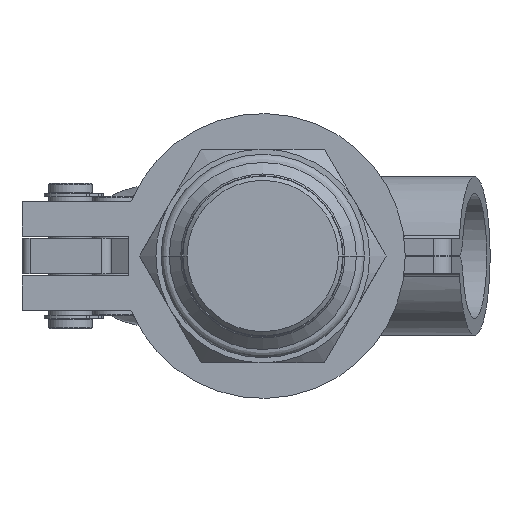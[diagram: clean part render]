
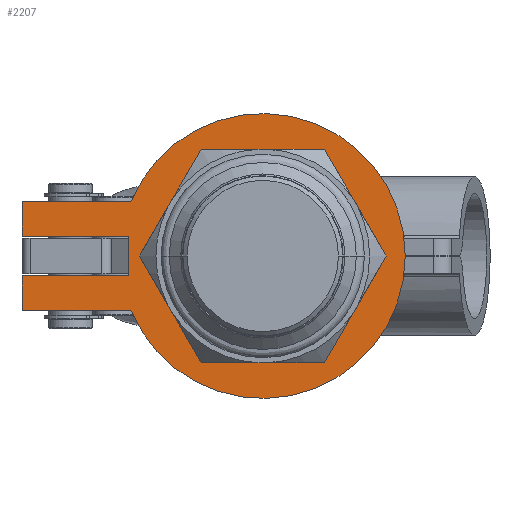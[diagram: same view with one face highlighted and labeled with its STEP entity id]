
A CAD part, front view. The second image highlights one B-rep face of the part: STEP entity #2207.
In plain terms, the highlighted planar face has unit normal (0, -1, 0).
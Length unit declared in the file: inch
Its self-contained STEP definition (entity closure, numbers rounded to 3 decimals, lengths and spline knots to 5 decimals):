
#314=DIRECTION('',(-1.,0.,0.));
#315=VECTOR('',#314,0.76501);
#316=CARTESIAN_POINT('',(-0.92499,0.86,-0.38));
#317=LINE('',#316,#315);
#318=DIRECTION('',(0.,0.,1.));
#319=VECTOR('',#318,0.24);
#320=CARTESIAN_POINT('',(-1.69,0.86,-0.38));
#321=LINE('',#320,#319);
#322=DIRECTION('',(1.,0.,0.));
#323=VECTOR('',#322,0.75);
#324=CARTESIAN_POINT('',(-1.69,0.86,-0.14));
#325=LINE('',#324,#323);
#326=DIRECTION('',(0.,0.,1.));
#327=VECTOR('',#326,0.28);
#328=CARTESIAN_POINT('',(-0.94,0.86,-0.14));
#329=LINE('',#328,#327);
#330=DIRECTION('',(-1.,0.,0.));
#331=VECTOR('',#330,0.75);
#332=CARTESIAN_POINT('',(-0.94,0.86,0.14));
#333=LINE('',#332,#331);
#334=DIRECTION('',(0.,0.,1.));
#335=VECTOR('',#334,0.24);
#336=CARTESIAN_POINT('',(-1.69,0.86,0.14));
#337=LINE('',#336,#335);
#338=DIRECTION('',(1.,0.,0.));
#339=VECTOR('',#338,0.76501);
#340=CARTESIAN_POINT('',(-1.69,0.86,0.38));
#341=LINE('',#340,#339);
#342=CARTESIAN_POINT('',(0.,0.86,0.));
#343=DIRECTION('',(0.,1.,0.));
#344=DIRECTION('',(-0.925,0.,0.38));
#345=AXIS2_PLACEMENT_3D('',#342,#343,#344);
#347=CARTESIAN_POINT('',(0.,0.86,0.));
#348=DIRECTION('',(0.,-1.,0.));
#349=DIRECTION('',(-0.045,0.,-0.999));
#350=AXIS2_PLACEMENT_3D('',#347,#348,#349);
#352=CARTESIAN_POINT('',(0.,0.86,0.));
#353=DIRECTION('',(0.,-1.,0.));
#354=DIRECTION('',(0.,0.,-1.));
#355=AXIS2_PLACEMENT_3D('',#352,#353,#354);
#357=CARTESIAN_POINT('',(0.,0.86,0.));
#358=DIRECTION('',(0.,-1.,0.));
#359=DIRECTION('',(0.843,0.,-0.538));
#360=AXIS2_PLACEMENT_3D('',#357,#358,#359);
#362=CARTESIAN_POINT('',(0.,0.86,0.));
#363=DIRECTION('',(0.,-1.,0.));
#364=DIRECTION('',(0.888,0.,0.461));
#365=AXIS2_PLACEMENT_3D('',#362,#363,#364);
#367=CARTESIAN_POINT('',(0.,0.86,0.));
#368=DIRECTION('',(0.,-1.,0.));
#369=DIRECTION('',(0.045,0.,0.999));
#370=AXIS2_PLACEMENT_3D('',#367,#368,#369);
#372=CARTESIAN_POINT('',(0.,0.86,0.));
#373=DIRECTION('',(0.,-1.,0.));
#374=DIRECTION('',(0.,0.,1.));
#375=AXIS2_PLACEMENT_3D('',#372,#373,#374);
#377=CARTESIAN_POINT('',(0.,0.86,0.));
#378=DIRECTION('',(0.,-1.,0.));
#379=DIRECTION('',(-0.843,0.,0.538));
#380=AXIS2_PLACEMENT_3D('',#377,#378,#379);
#382=CARTESIAN_POINT('',(0.,0.86,0.));
#383=DIRECTION('',(0.,-1.,0.));
#384=DIRECTION('',(-0.888,0.,-0.461));
#385=AXIS2_PLACEMENT_3D('',#382,#383,#384);
#522=DIRECTION('',(-0.5,0.,0.866));
#523=VECTOR('',#522,0.39905);
#524=CARTESIAN_POINT('',(-0.43258,0.86,-0.74925));
#525=LINE('',#524,#523);
#526=DIRECTION('',(-0.5,0.,0.866));
#527=VECTOR('',#526,0.39905);
#528=CARTESIAN_POINT('',(-0.66564,0.86,-0.34558));
#529=LINE('',#528,#527);
#582=DIRECTION('',(0.5,0.,0.866));
#583=VECTOR('',#582,0.39905);
#584=CARTESIAN_POINT('',(-0.86516,0.86,0.));
#585=LINE('',#584,#583);
#586=DIRECTION('',(0.5,0.,0.866));
#587=VECTOR('',#586,0.39905);
#588=CARTESIAN_POINT('',(-0.6321,0.86,0.40367));
#589=LINE('',#588,#587);
#642=DIRECTION('',(1.,0.,0.));
#643=VECTOR('',#642,0.39905);
#644=CARTESIAN_POINT('',(-0.43258,0.86,0.74925));
#645=LINE('',#644,#643);
#646=DIRECTION('',(1.,0.,0.));
#647=VECTOR('',#646,0.39905);
#648=CARTESIAN_POINT('',(0.03353,0.86,0.74925));
#649=LINE('',#648,#647);
#702=DIRECTION('',(0.5,0.,-0.866));
#703=VECTOR('',#702,0.39905);
#704=CARTESIAN_POINT('',(0.43258,0.86,0.74925));
#705=LINE('',#704,#703);
#706=DIRECTION('',(0.5,0.,-0.866));
#707=VECTOR('',#706,0.39905);
#708=CARTESIAN_POINT('',(0.66564,0.86,0.34558));
#709=LINE('',#708,#707);
#762=DIRECTION('',(-0.5,0.,-0.866));
#763=VECTOR('',#762,0.39905);
#764=CARTESIAN_POINT('',(0.86516,0.86,0.));
#765=LINE('',#764,#763);
#766=DIRECTION('',(-0.5,0.,-0.866));
#767=VECTOR('',#766,0.39905);
#768=CARTESIAN_POINT('',(0.6321,0.86,-0.40367));
#769=LINE('',#768,#767);
#822=DIRECTION('',(-1.,0.,0.));
#823=VECTOR('',#822,0.39905);
#824=CARTESIAN_POINT('',(0.43258,0.86,-0.74925));
#825=LINE('',#824,#823);
#826=DIRECTION('',(-1.,0.,0.));
#827=VECTOR('',#826,0.39905);
#828=CARTESIAN_POINT('',(-0.03353,0.86,-0.74925));
#829=LINE('',#828,#827);
#1771=CARTESIAN_POINT('',(-0.92499,0.86,-0.38));
#1772=CARTESIAN_POINT('',(-1.69,0.86,-0.38));
#1773=VERTEX_POINT('',#1771);
#1774=VERTEX_POINT('',#1772);
#1775=CARTESIAN_POINT('',(-1.69,0.86,-0.14));
#1776=VERTEX_POINT('',#1775);
#1777=CARTESIAN_POINT('',(-0.94,0.86,-0.14));
#1778=VERTEX_POINT('',#1777);
#1779=CARTESIAN_POINT('',(-0.94,0.86,0.14));
#1780=VERTEX_POINT('',#1779);
#1781=CARTESIAN_POINT('',(-1.69,0.86,0.14));
#1782=VERTEX_POINT('',#1781);
#1783=CARTESIAN_POINT('',(-1.69,0.86,0.38));
#1784=VERTEX_POINT('',#1783);
#1785=CARTESIAN_POINT('',(-0.92499,0.86,0.38));
#1786=VERTEX_POINT('',#1785);
#1807=CARTESIAN_POINT('',(0.,0.86,0.75));
#1808=VERTEX_POINT('',#1807);
#1809=CARTESIAN_POINT('',(0.,0.86,-0.75));
#1810=VERTEX_POINT('',#1809);
#1827=CARTESIAN_POINT('',(-0.03353,0.86,-0.74925));
#1828=CARTESIAN_POINT('',(-0.6321,0.86,-0.40367));
#1829=VERTEX_POINT('',#1827);
#1830=VERTEX_POINT('',#1828);
#1831=CARTESIAN_POINT('',(-0.66564,0.86,-0.34558));
#1832=CARTESIAN_POINT('',(-0.66564,0.86,0.34558));
#1833=VERTEX_POINT('',#1831);
#1834=VERTEX_POINT('',#1832);
#1835=CARTESIAN_POINT('',(-0.6321,0.86,0.40367));
#1836=CARTESIAN_POINT('',(-0.03353,0.86,0.74925));
#1837=VERTEX_POINT('',#1835);
#1838=VERTEX_POINT('',#1836);
#1839=CARTESIAN_POINT('',(0.03353,0.86,0.74925));
#1840=CARTESIAN_POINT('',(0.6321,0.86,0.40367));
#1841=VERTEX_POINT('',#1839);
#1842=VERTEX_POINT('',#1840);
#1843=CARTESIAN_POINT('',(0.66564,0.86,0.34558));
#1844=CARTESIAN_POINT('',(0.66564,0.86,-0.34558));
#1845=VERTEX_POINT('',#1843);
#1846=VERTEX_POINT('',#1844);
#1847=CARTESIAN_POINT('',(0.6321,0.86,-0.40367));
#1848=CARTESIAN_POINT('',(0.03353,0.86,-0.74925));
#1849=VERTEX_POINT('',#1847);
#1850=VERTEX_POINT('',#1848);
#1851=CARTESIAN_POINT('',(-0.43258,0.86,-0.74925));
#1852=VERTEX_POINT('',#1851);
#1853=CARTESIAN_POINT('',(-0.86516,0.86,0.));
#1854=VERTEX_POINT('',#1853);
#1855=CARTESIAN_POINT('',(-0.43258,0.86,0.74925));
#1856=VERTEX_POINT('',#1855);
#1857=CARTESIAN_POINT('',(0.43258,0.86,0.74925));
#1858=VERTEX_POINT('',#1857);
#1859=CARTESIAN_POINT('',(0.86516,0.86,0.));
#1860=VERTEX_POINT('',#1859);
#1861=CARTESIAN_POINT('',(0.43258,0.86,-0.74925));
#1862=VERTEX_POINT('',#1861);
#2146=CARTESIAN_POINT('',(-1.69,0.86,0.));
#2147=DIRECTION('',(0.,1.,0.));
#2148=DIRECTION('',(0.,0.,1.));
#2149=AXIS2_PLACEMENT_3D('',#2146,#2147,#2148);
#2150=PLANE('',#2149);
#2152=ORIENTED_EDGE('',*,*,#2151,.T.);
#2154=ORIENTED_EDGE('',*,*,#2153,.T.);
#2156=ORIENTED_EDGE('',*,*,#2155,.T.);
#2158=ORIENTED_EDGE('',*,*,#2157,.T.);
#2160=ORIENTED_EDGE('',*,*,#2159,.T.);
#2162=ORIENTED_EDGE('',*,*,#2161,.T.);
#2164=ORIENTED_EDGE('',*,*,#2163,.T.);
#2166=ORIENTED_EDGE('',*,*,#2165,.T.);
#2167=EDGE_LOOP('',(#2152,#2154,#2156,#2158,#2160,#2162,#2164,#2166));
#2168=FACE_OUTER_BOUND('',#2167,.F.);
#2170=ORIENTED_EDGE('',*,*,#2169,.F.);
#2172=ORIENTED_EDGE('',*,*,#2171,.F.);
#2173=ORIENTED_EDGE('',*,*,#2141,.T.);
#2175=ORIENTED_EDGE('',*,*,#2174,.T.);
#2177=ORIENTED_EDGE('',*,*,#2176,.F.);
#2179=ORIENTED_EDGE('',*,*,#2178,.F.);
#2181=ORIENTED_EDGE('',*,*,#2180,.T.);
#2183=ORIENTED_EDGE('',*,*,#2182,.F.);
#2185=ORIENTED_EDGE('',*,*,#2184,.F.);
#2187=ORIENTED_EDGE('',*,*,#2186,.T.);
#2189=ORIENTED_EDGE('',*,*,#2188,.F.);
#2191=ORIENTED_EDGE('',*,*,#2190,.F.);
#2193=ORIENTED_EDGE('',*,*,#2192,.T.);
#2194=ORIENTED_EDGE('',*,*,#2133,.T.);
#2196=ORIENTED_EDGE('',*,*,#2195,.F.);
#2198=ORIENTED_EDGE('',*,*,#2197,.F.);
#2199=ORIENTED_EDGE('',*,*,#2130,.T.);
#2201=ORIENTED_EDGE('',*,*,#2200,.F.);
#2203=ORIENTED_EDGE('',*,*,#2202,.F.);
#2204=ORIENTED_EDGE('',*,*,#2127,.T.);
#2205=EDGE_LOOP('',(#2170,#2172,#2173,#2175,#2177,#2179,#2181,#2183,#2185,#2187,
#2189,#2191,#2193,#2194,#2196,#2198,#2199,#2201,#2203,#2204));
#2206=FACE_BOUND('',#2205,.F.);
#2207=ADVANCED_FACE('',(#2168,#2206),#2150,.F.);
#346=CIRCLE('',#345,1.);
#351=CIRCLE('',#350,0.75);
#356=CIRCLE('',#355,0.75);
#361=CIRCLE('',#360,0.75);
#366=CIRCLE('',#365,0.75);
#371=CIRCLE('',#370,0.75);
#376=CIRCLE('',#375,0.75);
#381=CIRCLE('',#380,0.75);
#386=CIRCLE('',#385,0.75);
#2127=EDGE_CURVE('',#1833,#1830,#386,.T.);
#2130=EDGE_CURVE('',#1837,#1834,#381,.T.);
#2133=EDGE_CURVE('',#1808,#1838,#376,.T.);
#2141=EDGE_CURVE('',#1829,#1810,#351,.T.);
#2151=EDGE_CURVE('',#1773,#1774,#317,.T.);
#2153=EDGE_CURVE('',#1774,#1776,#321,.T.);
#2155=EDGE_CURVE('',#1776,#1778,#325,.T.);
#2157=EDGE_CURVE('',#1778,#1780,#329,.T.);
#2159=EDGE_CURVE('',#1780,#1782,#333,.T.);
#2161=EDGE_CURVE('',#1782,#1784,#337,.T.);
#2163=EDGE_CURVE('',#1784,#1786,#341,.T.);
#2165=EDGE_CURVE('',#1786,#1773,#346,.T.);
#2169=EDGE_CURVE('',#1852,#1830,#525,.T.);
#2171=EDGE_CURVE('',#1829,#1852,#829,.T.);
#2174=EDGE_CURVE('',#1810,#1850,#356,.T.);
#2176=EDGE_CURVE('',#1862,#1850,#825,.T.);
#2178=EDGE_CURVE('',#1849,#1862,#769,.T.);
#2180=EDGE_CURVE('',#1849,#1846,#361,.T.);
#2182=EDGE_CURVE('',#1860,#1846,#765,.T.);
#2184=EDGE_CURVE('',#1845,#1860,#709,.T.);
#2186=EDGE_CURVE('',#1845,#1842,#366,.T.);
#2188=EDGE_CURVE('',#1858,#1842,#705,.T.);
#2190=EDGE_CURVE('',#1841,#1858,#649,.T.);
#2192=EDGE_CURVE('',#1841,#1808,#371,.T.);
#2195=EDGE_CURVE('',#1856,#1838,#645,.T.);
#2197=EDGE_CURVE('',#1837,#1856,#589,.T.);
#2200=EDGE_CURVE('',#1854,#1834,#585,.T.);
#2202=EDGE_CURVE('',#1833,#1854,#529,.T.);
